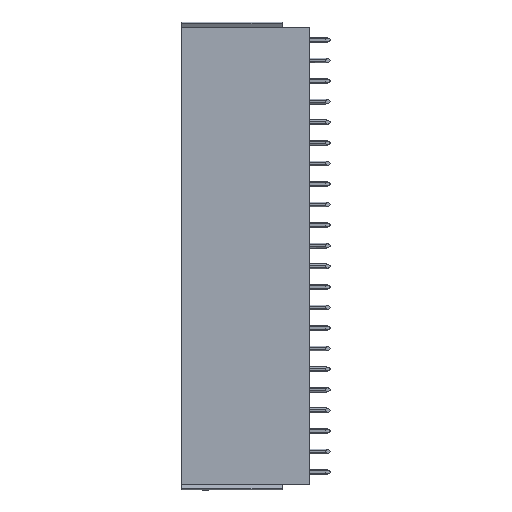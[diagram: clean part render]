
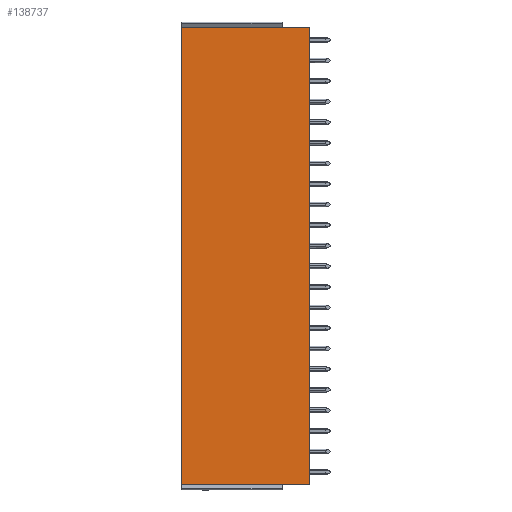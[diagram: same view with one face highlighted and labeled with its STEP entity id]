
A CAD part, left-side view. The second image highlights one B-rep face of the part: STEP entity #138737.
In plain terms, the highlighted planar face has unit normal (-1, 0, 0).
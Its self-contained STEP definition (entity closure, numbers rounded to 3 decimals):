
#4797 = LINE ( 'NONE', #123210, #157254 ) ;
#6983 = CARTESIAN_POINT ( 'NONE',  ( -20.9, 21.7, -49.3 ) ) ;
#11432 = CARTESIAN_POINT ( 'NONE',  ( -20.9, 21.7, 0. ) ) ;
#29514 = VERTEX_POINT ( 'NONE', #11432 ) ;
#53251 = DIRECTION ( 'NONE',  ( 0., 1., 0. ) ) ;
#59502 = PLANE ( 'NONE',  #82756 ) ;
#64294 = ORIENTED_EDGE ( 'NONE', *, *, #93299, .T. ) ;
#78085 = VERTEX_POINT ( 'NONE', #173770 ) ;
#82756 = AXIS2_PLACEMENT_3D ( 'NONE', #142613, #192500, #158573 ) ;
#93299 = EDGE_CURVE ( 'NONE', #128212, #78085, #4797, .T. ) ;
#96794 = ORIENTED_EDGE ( 'NONE', *, *, #154109, .T. ) ;
#101832 = LINE ( 'NONE', #6983, #166643 ) ;
#112371 = ORIENTED_EDGE ( 'NONE', *, *, #133810, .T. ) ;
#118614 = VERTEX_POINT ( 'NONE', #166685 ) ;
#122654 = ORIENTED_EDGE ( 'NONE', *, *, #155499, .F. ) ;
#123210 = CARTESIAN_POINT ( 'NONE',  ( -20.9, 0., -49.3 ) ) ;
#125251 = CARTESIAN_POINT ( 'NONE',  ( -20.9, 12.5, 0. ) ) ;
#128212 = VERTEX_POINT ( 'NONE', #164455 ) ;
#133810 = EDGE_CURVE ( 'NONE', #29514, #118614, #101832, .T. ) ;
#138533 = DIRECTION ( 'NONE',  ( 0., 0., -1. ) ) ;
#138737 = ADVANCED_FACE ( 'NONE', ( #151345 ), #59502, .T. ) ;
#142613 = CARTESIAN_POINT ( 'NONE',  ( -20.9, 12.5, -49.3 ) ) ;
#151345 = FACE_OUTER_BOUND ( 'NONE', #192422, .T. ) ;
#151610 = VECTOR ( 'NONE', #53251, 1000. ) ;
#154109 = EDGE_CURVE ( 'NONE', #78085, #29514, #165889, .T. ) ;
#155499 = EDGE_CURVE ( 'NONE', #128212, #118614, #187862, .T. ) ;
#157254 = VECTOR ( 'NONE', #173239, 1000. ) ;
#158573 = DIRECTION ( 'NONE',  ( 0., 1., 0. ) ) ;
#164455 = CARTESIAN_POINT ( 'NONE',  ( -20.9, 0., -77.6 ) ) ;
#165889 = LINE ( 'NONE', #125251, #169818 ) ;
#166643 = VECTOR ( 'NONE', #138533, 1000. ) ;
#166685 = CARTESIAN_POINT ( 'NONE',  ( -20.9, 21.7, -77.6 ) ) ;
#169709 = CARTESIAN_POINT ( 'NONE',  ( -20.9, 12.5, -77.6 ) ) ;
#169818 = VECTOR ( 'NONE', #189706, 1000. ) ;
#173239 = DIRECTION ( 'NONE',  ( 0., 0., 1. ) ) ;
#173770 = CARTESIAN_POINT ( 'NONE',  ( -20.9, 0., 0. ) ) ;
#187862 = LINE ( 'NONE', #169709, #151610 ) ;
#189706 = DIRECTION ( 'NONE',  ( 0., 1., 0. ) ) ;
#192422 = EDGE_LOOP ( 'NONE', ( #112371, #122654, #64294, #96794 ) ) ;
#192500 = DIRECTION ( 'NONE',  ( -1., 0., 0. ) ) ;
